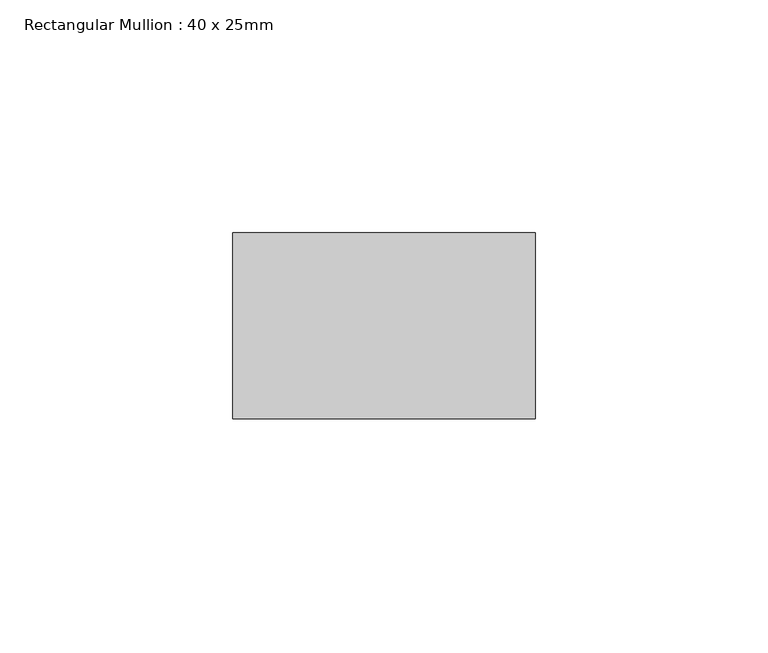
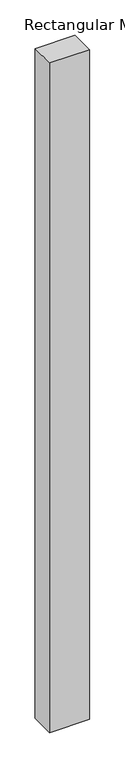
"""IFC4 building model written with IfcOpenShell, lengths in millimetres: member geometry, Rectangular Mullion : 40 x 25mm."""

import ifcopenshell
import ifcopenshell.guid

model = None  # the IFC model being written
_history = None  # IfcOwnerHistory: only IFC2X3 demands one
_inside = {}  # id of a spatial element -> (the spatial element, [elements in it])
_under = {}  # id of a project, library or spatial element -> (it, [spatial elements below it])
_declared = {}  # id of a project -> (the project, [libraries it declares])
_typed = {}  # id of a type object -> (the type object, [elements of that type])
_made_of = {}  # id of a material, layer set ... -> (it, [elements and type objects made of it])


def new_model(schema):
    """Start an empty IFC model of exactly this schema.

    Asked for "IFC4X3", IfcOpenShell would pick the latest addendum, in which some entities
    have other attributes; the version numbers below select the first issue.
    IFC2X3 requires an IfcOwnerHistory on every rooted entity: one is made here for all.
    """
    global model, _history
    if schema == "IFC4X3":
        model = ifcopenshell.file(schema_version=(4, 3, 0, 0))
    else:
        model = ifcopenshell.file(schema=schema)
    _inside.clear()
    _under.clear()
    _declared.clear()
    _typed.clear()
    _made_of.clear()
    _history = None
    if model.schema == "IFC2X3":
        org = make("IfcOrganization", Name="unknown")
        user = make(
            "IfcPersonAndOrganization",
            ThePerson=make("IfcPerson", FamilyName="unknown"),
            TheOrganization=org,
        )
        app = make(
            "IfcApplication",
            ApplicationDeveloper=org,
            Version="unknown",
            ApplicationFullName="unknown",
            ApplicationIdentifier="unknown",
        )
        _history = make(
            "IfcOwnerHistory",
            OwningUser=user,
            OwningApplication=app,
            ChangeAction="ADDED",
            CreationDate=0,
        )
    return model


def make(cls, **values):
    """One entity of the class cls with the attributes given. An attribute that is None is left unset."""
    return model.create_entity(
        cls, **{name: value for name, value in values.items() if value is not None}
    )


def rooted(cls, **values):
    """An entity with a GlobalId (a new one), such as an element, a storey or a relation."""
    return make(cls, GlobalId=ifcopenshell.guid.new(), OwnerHistory=_history, **values)


def si_unit(unit_type, name, prefix=None):
    """IfcSIUnit, for example si_unit("LENGTHUNIT", "METRE", prefix="MILLI")."""
    return make("IfcSIUnit", UnitType=unit_type, Prefix=prefix, Name=name)


def assignment(units):
    """IfcUnitAssignment: the units of a project."""
    return None if units is None else make("IfcUnitAssignment", Units=units)


def point(xyz):
    """IfcCartesianPoint."""
    return None if xyz is None else make("IfcCartesianPoint", Coordinates=xyz)


def direction(xyz):
    """IfcDirection."""
    return None if xyz is None else make("IfcDirection", DirectionRatios=xyz)


def frame(location, z_axis=None, x_axis=None):
    """IfcAxis2Placement3D, a coordinate frame: its origin and axes. An axis left out is left unset."""
    return make(
        "IfcAxis2Placement3D",
        Location=point(location),
        Axis=direction(z_axis),
        RefDirection=direction(x_axis),
    )


def origin():
    """The frame at (0, 0, 0) with its axes left unset."""
    return frame((0.0, 0.0, 0.0))


def place(relative_to, where):
    """IfcLocalPlacement: puts the frame where relative to a parent placement (None: the world)."""
    return make(
        "IfcLocalPlacement", PlacementRelTo=relative_to, RelativePlacement=where
    )


def context(
    kind, dimensions, precision=None, world=None, true_north=None, identifier=None
):
    """IfcGeometricRepresentationContext, for example the 3D "Model" context."""
    return make(
        "IfcGeometricRepresentationContext",
        ContextIdentifier=identifier,
        ContextType=kind,
        CoordinateSpaceDimension=dimensions,
        Precision=precision,
        WorldCoordinateSystem=world,
        TrueNorth=true_north,
    )


def project(units=None, contexts=None):
    """IfcProject with its units and contexts."""
    return rooted(
        "IfcProject",
        Name="project",
        RepresentationContexts=contexts,
        UnitsInContext=assignment(units),
    )


def spatial(cls, under=None, at=None, **own):
    """A site, building, storey or space (cls), placed at a placement, below another one or the project."""
    s = rooted(cls, ObjectPlacement=at, **own)
    if under is not None:
        _under.setdefault(under.id(), (under, []))[1].append(s)
    return s


def polyline(points):
    """IfcPolyline through the points."""
    return make("IfcPolyline", Points=[point(p) for p in points])


def outline(outer, holes=None, kind="AREA"):
    """IfcArbitraryClosedProfileDef: a profile drawn as a closed curve; with holes, ...WithVoids."""
    if holes is None:
        return make("IfcArbitraryClosedProfileDef", ProfileType=kind, OuterCurve=outer)
    return make(
        "IfcArbitraryProfileDefWithVoids",
        ProfileType=kind,
        OuterCurve=outer,
        InnerCurves=holes,
    )


def extrude(swept, where, along, depth):
    """IfcExtrudedAreaSolid: the profile swept, set in the frame where, extruded along a direction by depth."""
    return make(
        "IfcExtrudedAreaSolid",
        SweptArea=swept,
        Position=where,
        ExtrudedDirection=direction(along),
        Depth=depth,
    )


def shape(context_of_items, identifier, shape_type, items):
    """IfcShapeRepresentation: the items that make up one representation, for example the "Body"."""
    return make(
        "IfcShapeRepresentation",
        ContextOfItems=context_of_items,
        RepresentationIdentifier=identifier,
        RepresentationType=shape_type,
        Items=items,
    )


def source(mapping_origin, context_of_items, identifier, shape_type, items):
    """IfcRepresentationMap: a shape defined once, which mapped items show again and again."""
    return make(
        "IfcRepresentationMap",
        MappingOrigin=mapping_origin,
        MappedRepresentation=shape(context_of_items, identifier, shape_type, items),
    )


def transform(
    local_origin,
    x_axis=None,
    y_axis=None,
    z_axis=None,
    scale=None,
    scale2=None,
    scale3=None,
    uniform=True,
):
    """IfcCartesianTransformationOperator3D, or its non-uniform kind. x_axis, y_axis, z_axis: its Axis1, 2, 3."""
    if uniform:
        return make(
            "IfcCartesianTransformationOperator3D",
            Axis1=direction(x_axis),
            Axis2=direction(y_axis),
            LocalOrigin=point(local_origin),
            Scale=scale,
            Axis3=direction(z_axis),
        )
    return make(
        "IfcCartesianTransformationOperator3DnonUniform",
        Axis1=direction(x_axis),
        Axis2=direction(y_axis),
        LocalOrigin=point(local_origin),
        Scale=scale,
        Axis3=direction(z_axis),
        Scale2=scale2,
        Scale3=scale3,
    )


def mapped(mapping_source, mapping_target):
    """IfcMappedItem: shows the shape of a source again, moved by a transform."""
    return make(
        "IfcMappedItem", MappingSource=mapping_source, MappingTarget=mapping_target
    )


def made_of(thing, what):
    """Note that an element or type object is made of a material, layer set ...; save() writes the relation."""
    if what is not None:
        _made_of.setdefault(what.id(), (what, []))[1].append(thing)
    return thing


def element(
    cls,
    number,
    at=None,
    inside=None,
    cuts=None,
    type_object=None,
    material=None,
    context=None,
    identifier="Body",
    shape_type=None,
    held_by="IfcProductDefinitionShape",
    body=None,
    shapes=None,
    **own,
):
    """One element of the class cls, such as IfcWall. Its Tag is "e" and its number.

    at: its placement. inside: the storey or other place that contains it. cuts: it is an
    opening in that element (IfcRelVoidsElement). A single representation is given by context,
    identifier, shape_type and body (its items); several are given by shapes. held_by: the class
    of the entity that holds the representations. save() writes the other relations.
    """
    e = rooted(cls, Tag="e%d" % number, ObjectPlacement=at, **own)
    if body is not None:
        shapes = [shape(context, identifier, shape_type, body)]
    if shapes is not None:
        e.Representation = make(held_by, Representations=shapes)
    if inside is not None:
        _inside.setdefault(inside.id(), (inside, []))[1].append(e)
    if cuts is not None:
        rooted(
            "IfcRelVoidsElement", RelatingBuildingElement=cuts, RelatedOpeningElement=e
        )
    if type_object is not None:
        _typed.setdefault(type_object.id(), (type_object, []))[1].append(e)
    return made_of(e, material)


def aggregate(whole, parts):
    """IfcRelAggregates: a whole, such as a stair, and the parts it consists of."""
    return rooted("IfcRelAggregates", RelatingObject=whole, RelatedObjects=parts)


def save(model, path):
    """Write the relations noted so far, then the file.

    IfcRelAggregates (storeys below a building ...), IfcRelContainedInSpatialStructure (elements
    in a storey), IfcRelDefinesByType, IfcRelAssociatesMaterial and IfcRelDeclares: one each for
    every whole, place, type object, material and project.
    """
    for whole, parts in _under.values():
        aggregate(whole, parts)
    for where, things in _inside.values():
        rooted(
            "IfcRelContainedInSpatialStructure",
            RelatedElements=things,
            RelatingStructure=where,
        )
    for kind, things in _typed.values():
        rooted("IfcRelDefinesByType", RelatedObjects=things, RelatingType=kind)
    for what, things in _made_of.values():
        rooted("IfcRelAssociatesMaterial", RelatedObjects=things, RelatingMaterial=what)
    for by, libraries in _declared.values():
        rooted("IfcRelDeclares", RelatingContext=by, RelatedDefinitions=libraries)
    model.write(path)


def rectangular_mullion_40_x_25mm_14f45f6d(model_context):
    return source(origin(), model_context, "Body", "SweptSolid", [
        extrude(outline(polyline([(0.0, -20.0), (0.0, -60.0), (-65.0, -60.0), (-65.0, -20.0), (0.0, -20.0)])), frame((0.0, 0.0, -1152.0195689), z_axis=(0.0, 0.0, 1.0), x_axis=(1.0, 0.0, 0.0)), (0.0, 0.0, 1.0), 1152.0195689),
    ])


if __name__ == "__main__":
    model = new_model("IFC4")
    model_context = context("Model", 3, world=origin())
    ifc_project = project(units=[si_unit("LENGTHUNIT", "METRE", prefix="MILLI")], contexts=[model_context])
    site = spatial("IfcSite", under=ifc_project)
    building = spatial("IfcBuilding", under=site)
    placement = place(None, origin())
    rectangular_mullion_40_x_25mm_shape = rectangular_mullion_40_x_25mm_14f45f6d(model_context)
    element("IfcMember", 1, ObjectType="Rectangular Mullion : 40 x 25mm", at=placement, inside=building, context=model_context, shape_type="MappedRepresentation", body=[
        mapped(rectangular_mullion_40_x_25mm_shape, transform((0.0, 0.0, 0.0), x_axis=(1.0, 0.0, 0.0), y_axis=(0.0, 1.0, 0.0), z_axis=(0.0, 0.0, 1.0))),
    ])
    save(model, "model.ifc")
